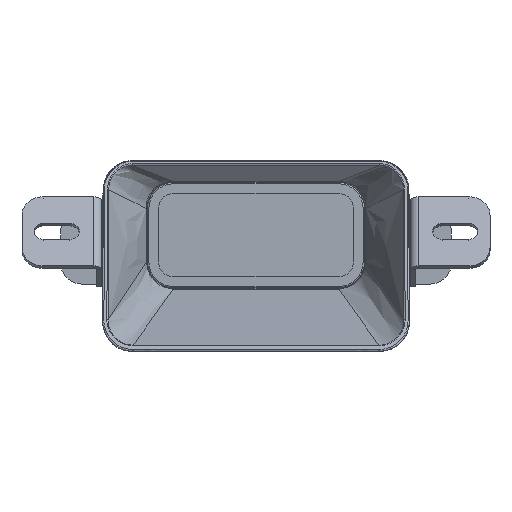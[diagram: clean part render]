
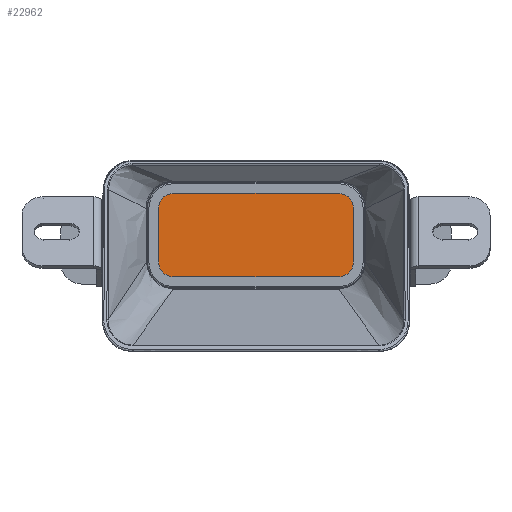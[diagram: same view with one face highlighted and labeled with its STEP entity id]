
A CAD part, front view. The second image highlights one B-rep face of the part: STEP entity #22962.
In plain terms, the highlighted planar face has unit normal (0, -1, 0).
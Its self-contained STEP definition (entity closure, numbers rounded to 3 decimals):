
#22731=CARTESIAN_POINT('',(15.5,0.,5.));
#22732=DIRECTION('',(0.,1.,0.));
#22733=DIRECTION('',(0.,0.,1.));
#22734=AXIS2_PLACEMENT_3D('',#22731,#22732,#22733);
#22754=DIRECTION('',(1.,0.,0.));
#22755=VECTOR('',#22754,31.);
#22756=CARTESIAN_POINT('',(-15.5,0.,7.85));
#22757=LINE('',#22756,#22755);
#22775=CARTESIAN_POINT('',(-15.5,0.,5.));
#22776=DIRECTION('',(0.,1.,0.));
#22777=DIRECTION('',(-1.,0.,0.));
#22778=AXIS2_PLACEMENT_3D('',#22775,#22776,#22777);
#22798=DIRECTION('',(0.,0.,1.));
#22799=VECTOR('',#22798,10.);
#22800=CARTESIAN_POINT('',(-18.35,0.,-5.));
#22801=LINE('',#22800,#22799);
#22819=CARTESIAN_POINT('',(-15.5,0.,-5.));
#22820=DIRECTION('',(0.,1.,0.));
#22821=DIRECTION('',(0.,0.,-1.));
#22822=AXIS2_PLACEMENT_3D('',#22819,#22820,#22821);
#22842=DIRECTION('',(-1.,0.,0.));
#22843=VECTOR('',#22842,31.);
#22844=CARTESIAN_POINT('',(15.5,0.,-7.85));
#22845=LINE('',#22844,#22843);
#22863=CARTESIAN_POINT('',(15.5,0.,-5.));
#22864=DIRECTION('',(0.,1.,0.));
#22865=DIRECTION('',(1.,0.,0.));
#22866=AXIS2_PLACEMENT_3D('',#22863,#22864,#22865);
#22886=DIRECTION('',(0.,0.,-1.));
#22887=VECTOR('',#22886,10.);
#22888=CARTESIAN_POINT('',(18.35,0.,5.));
#22889=LINE('',#22888,#22887);
#22923=CARTESIAN_POINT('',(15.5,0.,7.85));
#22924=CARTESIAN_POINT('',(18.35,0.,5.));
#22925=VERTEX_POINT('',#22923);
#22926=VERTEX_POINT('',#22924);
#22927=CARTESIAN_POINT('',(18.35,0.,-5.));
#22928=VERTEX_POINT('',#22927);
#22929=CARTESIAN_POINT('',(15.5,0.,-7.85));
#22930=VERTEX_POINT('',#22929);
#22931=CARTESIAN_POINT('',(-15.5,0.,-7.85));
#22932=VERTEX_POINT('',#22931);
#22933=CARTESIAN_POINT('',(-18.35,0.,-5.));
#22934=VERTEX_POINT('',#22933);
#22935=CARTESIAN_POINT('',(-18.35,0.,5.));
#22936=VERTEX_POINT('',#22935);
#22937=CARTESIAN_POINT('',(-15.5,0.,7.85));
#22938=VERTEX_POINT('',#22937);
#22939=CARTESIAN_POINT('',(0.,0.,0.));
#22940=DIRECTION('',(0.,1.,0.));
#22941=DIRECTION('',(1.,0.,0.));
#22942=AXIS2_PLACEMENT_3D('',#22939,#22940,#22941);
#22943=PLANE('',#22942);
#22945=ORIENTED_EDGE('',*,*,#22944,.T.);
#22947=ORIENTED_EDGE('',*,*,#22946,.T.);
#22949=ORIENTED_EDGE('',*,*,#22948,.T.);
#22951=ORIENTED_EDGE('',*,*,#22950,.T.);
#22953=ORIENTED_EDGE('',*,*,#22952,.T.);
#22955=ORIENTED_EDGE('',*,*,#22954,.T.);
#22957=ORIENTED_EDGE('',*,*,#22956,.T.);
#22959=ORIENTED_EDGE('',*,*,#22958,.T.);
#22960=EDGE_LOOP('',(#22945,#22947,#22949,#22951,#22953,#22955,#22957,#22959));
#22961=FACE_OUTER_BOUND('',#22960,.F.);
#22735=CIRCLE('',#22734,2.85);
#22779=CIRCLE('',#22778,2.85);
#22823=CIRCLE('',#22822,2.85);
#22867=CIRCLE('',#22866,2.85);
#22944=EDGE_CURVE('',#22925,#22926,#22735,.T.);
#22946=EDGE_CURVE('',#22926,#22928,#22889,.T.);
#22948=EDGE_CURVE('',#22928,#22930,#22867,.T.);
#22950=EDGE_CURVE('',#22930,#22932,#22845,.T.);
#22952=EDGE_CURVE('',#22932,#22934,#22823,.T.);
#22954=EDGE_CURVE('',#22934,#22936,#22801,.T.);
#22956=EDGE_CURVE('',#22936,#22938,#22779,.T.);
#22958=EDGE_CURVE('',#22938,#22925,#22757,.T.);
#22962=ADVANCED_FACE('',(#22961),#22943,.F.);
